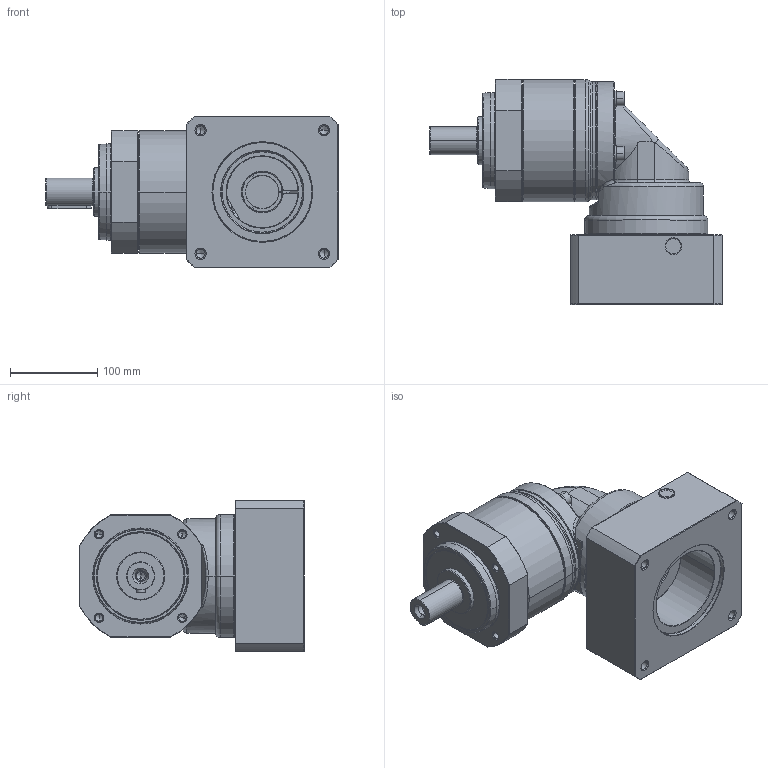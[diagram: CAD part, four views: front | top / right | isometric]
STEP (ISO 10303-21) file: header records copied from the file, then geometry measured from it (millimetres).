
FILE_DESCRIPTION((''),'2;1');
FILE_NAME('PS2R-E_1ST_38-P0411900101_ASM','2016-05-30T',('d01943'),(''),'PRO/ENGINEER BY PARAMETRIC TECHNOLOGY CORPORATION, 2008410','PRO/ENGINEER BY PARAMETRIC TECHNOLOGY CORPORATION, 2008410','');
FILE_SCHEMA(('CONFIG_CONTROL_DESIGN'));
Length unit declared in the file: millimetre
Products named in the file (12): P1328510001; P0250500001; P0350501401; P1349500001; P1017500001; P0713505001; P0503900010; P1350500501; P0411900101; P1702600001; 2111BA10040; PS2R-E_1ST_38-P0411900101_ASM
Assembly tree (14 placements, depth 2):
  PS2R-E_1ST_38-P0411900101_ASM
    P1328510001
    P0250500001
    P0350501401
    P1349500001
    P1017500001
    P0713505001
    P0503900010
    P1350500501
    P0411900101
    P1702600001
    2111BA10040  x4
Bounding box: 335 x 257.5 x 174 mm (x, y, z)
Volume: 4217062.4 mm3; surface area: 548878.9 mm2
Topology: 14 solids, 14 shells, 715 faces, 1578 edges, 911 vertices
Faces by surface type: cone 210, cylinder 210, plane 167, torus 94, bspline 34
Entity records: 22914 total; most frequent: CARTESIAN_POINT 9173, DIRECTION 3020, ORIENTED_EDGE 2668, EDGE_CURVE 1334, AXIS2_PLACEMENT_3D 1268, VERTEX_POINT 791, EDGE_LOOP 693, CIRCLE 660
